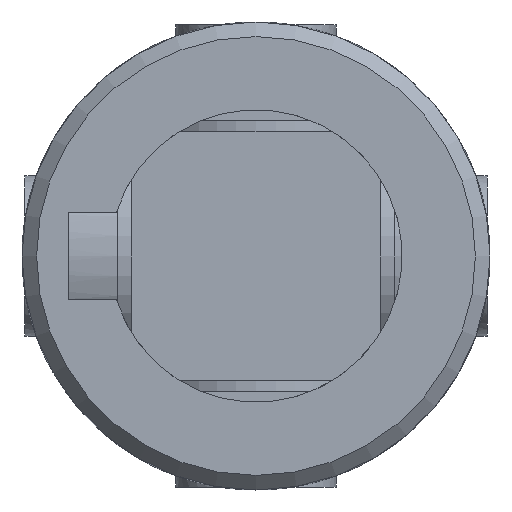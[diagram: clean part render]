
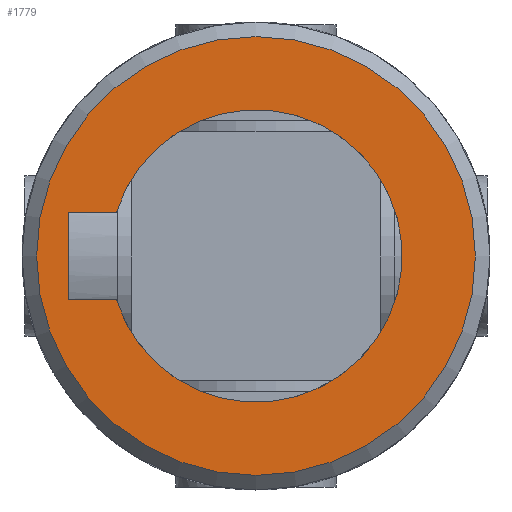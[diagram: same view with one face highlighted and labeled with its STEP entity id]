
A CAD part, front view. The second image highlights one B-rep face of the part: STEP entity #1779.
In plain terms, the highlighted planar face has unit normal (0, -1, 0).
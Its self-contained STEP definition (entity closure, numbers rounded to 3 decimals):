
#108=LINE('',#3399,#169);
#110=LINE('',#3405,#171);
#114=LINE('',#3417,#175);
#169=VECTOR('',#2344,6.);
#171=VECTOR('',#2350,3.261);
#175=VECTOR('',#2362,3.261);
#233=PLANE('',#1972);
#393=FACE_BOUND('',#634,.T.);
#486=FACE_OUTER_BOUND('',#633,.T.);
#633=EDGE_LOOP('',(#1563));
#634=EDGE_LOOP('',(#1564,#1565,#1566,#1567));
#729=CIRCLE('',#1958,10.);
#736=CIRCLE('',#1970,15.);
#869=VERTEX_POINT('',#3396);
#870=VERTEX_POINT('',#3398);
#872=VERTEX_POINT('',#3404);
#876=VERTEX_POINT('',#3415);
#890=VERTEX_POINT('',#3512);
#1088=EDGE_CURVE('',#870,#869,#108,.T.);
#1091=EDGE_CURVE('',#872,#870,#110,.T.);
#1097=EDGE_CURVE('',#869,#876,#114,.T.);
#1106=EDGE_CURVE('',#876,#872,#729,.T.);
#1118=EDGE_CURVE('',#890,#890,#736,.T.);
#1563=ORIENTED_EDGE('',*,*,#1118,.F.);
#1564=ORIENTED_EDGE('',*,*,#1097,.T.);
#1565=ORIENTED_EDGE('',*,*,#1106,.T.);
#1566=ORIENTED_EDGE('',*,*,#1091,.T.);
#1567=ORIENTED_EDGE('',*,*,#1088,.T.);
#1779=ADVANCED_FACE('',(#486,#393),#233,.F.);
#1958=AXIS2_PLACEMENT_3D('',#3462,#2371,#2372);
#1970=AXIS2_PLACEMENT_3D('',#3513,#2396,#2397);
#1972=AXIS2_PLACEMENT_3D('',#3725,#2404,#2405);
#2344=DIRECTION('',(-1.,0.,0.));
#2350=DIRECTION('',(0.,0.,-1.));
#2362=DIRECTION('',(0.,0.,1.));
#2371=DIRECTION('center_axis',(0.,1.,0.));
#2372=DIRECTION('ref_axis',(-0.3,0.,0.954));
#2396=DIRECTION('center_axis',(0.,1.,0.));
#2397=DIRECTION('ref_axis',(1.,0.,0.));
#2404=DIRECTION('center_axis',(0.,1.,0.));
#2405=DIRECTION('ref_axis',(0.,0.,1.));
#3396=CARTESIAN_POINT('',(-3.,-51.,-12.8));
#3398=CARTESIAN_POINT('',(3.,-51.,-12.8));
#3399=CARTESIAN_POINT('',(1.5,-51.,-12.8));
#3404=CARTESIAN_POINT('',(3.,-51.,-9.539));
#3405=CARTESIAN_POINT('',(3.,-51.,-4.77));
#3415=CARTESIAN_POINT('',(-3.,-51.,-9.539));
#3417=CARTESIAN_POINT('',(-3.,-51.,-6.4));
#3462=CARTESIAN_POINT('Origin',(0.,-51.,0.));
#3512=CARTESIAN_POINT('',(-15.,-51.,0.));
#3513=CARTESIAN_POINT('Origin',(0.,-51.,0.));
#3725=CARTESIAN_POINT('Origin',(0.,-51.,0.));
